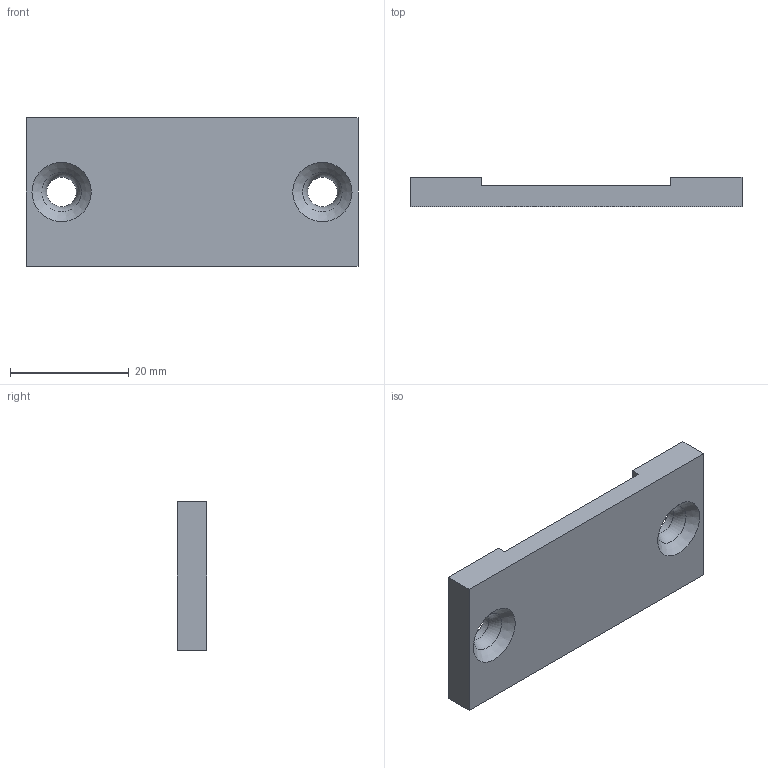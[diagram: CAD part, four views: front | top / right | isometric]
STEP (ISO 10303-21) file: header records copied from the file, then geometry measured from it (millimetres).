
FILE_DESCRIPTION(/* description */ (''),/* implementation_level */ '2;1');
FILE_NAME(/* name */ 'Tape Measure-Straight Holder v1.step',/* time_stamp */ '2025-06-04T21:18:44-04:00',/* author */ (''),/* organization */ (''),/* preprocessor_version */ 'ST-DEVELOPER v20.1',/* originating_system */ 'Autodesk Translation Framework v14.10.0.0',/* authorisation */ '');
FILE_SCHEMA (('AUTOMOTIVE_DESIGN { 1 0 10303 214 3 1 1 }'));
Length unit declared in the file: millimetre
Products named in the file (1): Tape Measure-Straight Holder
Bounding box: 56 x 5 x 25 mm (x, y, z)
Volume: 5466.2 mm3; surface area: 3635.7 mm2
Topology: 1 solids, 1 shells, 16 faces, 42 edges, 28 vertices
Faces by surface type: plane 10, torus 2, cone 2, cylinder 2
Full cylindrical faces by diameter (mm): 5 x2
Entity records: 541 total; most frequent: DIRECTION 90, CARTESIAN_POINT 87, ORIENTED_EDGE 84, EDGE_CURVE 42, AXIS2_PLACEMENT_3D 31, LINE 28, VECTOR 28, VERTEX_POINT 28
